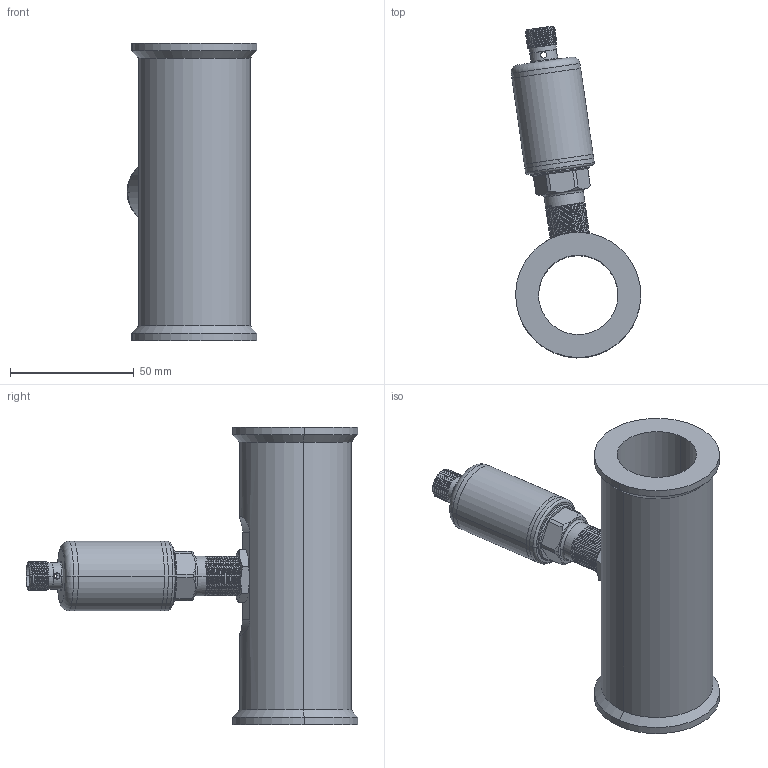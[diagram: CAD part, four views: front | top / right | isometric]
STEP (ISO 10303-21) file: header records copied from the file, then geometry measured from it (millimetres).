
FILE_DESCRIPTION (( 'STEP AP214' ), '1' );
FILE_NAME ('BFW1K32-J.STEP', '2026-01-20T07:24:37', ( '' ), ( '' ), 'SwSTEP 2.0', 'SolidWorks 2023', '' );
FILE_SCHEMA (( 'AUTOMOTIVE_DESIGN' ));
Length unit declared in the file: millimetre
Products named in the file (8): 探头; 壳体; DN32卡盘主体; M16螺母; BFW1K32-J; 连接管; 垫片; 压力变送器
Assembly tree (7 placements, depth 3):
  BFW1K32-J
    压力变送器
      壳体
      垫片
      连接管
      探头
    M16螺母
    DN32卡盘主体
Bounding box: 52.3 x 133.77 x 120 mm (x, y, z)
Volume: 108949.7 mm3; surface area: 49653.8 mm2
Topology: 6 solids, 6 shells, 239 faces, 600 edges, 385 vertices
Faces by surface type: cylinder 130, cone 52, plane 43, torus 8, bspline 6
Entity records: 11568 total; most frequent: CARTESIAN_POINT 5949, ORIENTED_EDGE 1200, DIRECTION 1072, EDGE_CURVE 600, AXIS2_PLACEMENT_3D 430, VERTEX_POINT 385, EDGE_LOOP 271, FACE_OUTER_BOUND 239
